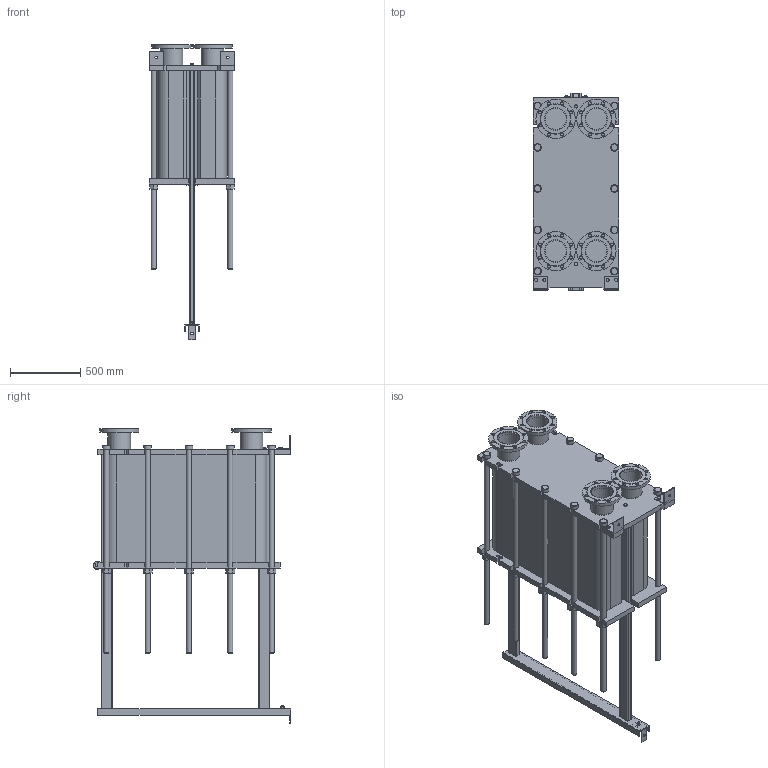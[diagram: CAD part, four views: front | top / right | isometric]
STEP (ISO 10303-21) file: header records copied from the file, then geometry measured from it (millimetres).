
FILE_DESCRIPTION(/* description */ (''),/* implementation_level */ '2;1');
FILE_NAME(/* name */ 'C:\Users\zhuro\Desktop\ENCO\TO\ЭН-041\ЭН-0,5-041-222-1.stp',/* time_stamp */ '2022-06-06T11:07:29+03:00',/* author */ ('zhuro'),/* organization */ (''),/* preprocessor_version */ 'ST-DEVELOPER v18.1',/* originating_system */ 'Autodesk Inventor 2022',/* authorisation */ '');
FILE_SCHEMA (('AUTOMOTIVE_DESIGN { 1 0 10303 214 3 1 1 }'));
Length unit declared in the file: millimetre
Products named in the file (1): ЭН-0,5-041-222-1
Bounding box: 610 x 1406.5 x 2105 mm (x, y, z)
Volume: 519817115.9 mm3; surface area: 11714511.1 mm2
Topology: 52 solids, 52 shells, 711 faces, 1696 edges, 1094 vertices
Faces by surface type: plane 487, cylinder 177, cone 41, torus 6
Full cylindrical faces by diameter (mm): 8 x4, 10 x2, 16 x8, 18 x3, 22 x32, 36 x24, 50 x1, 54 x10, 60 x12, 151 x4, 161 x8, 280 x4
Entity records: 22667 total; most frequent: CARTESIAN_POINT 5230, DIRECTION 3644, ORIENTED_EDGE 3392, EDGE_CURVE 1696, AXIS2_PLACEMENT_3D 1272, LINE 1100, VECTOR 1100, VERTEX_POINT 1094
